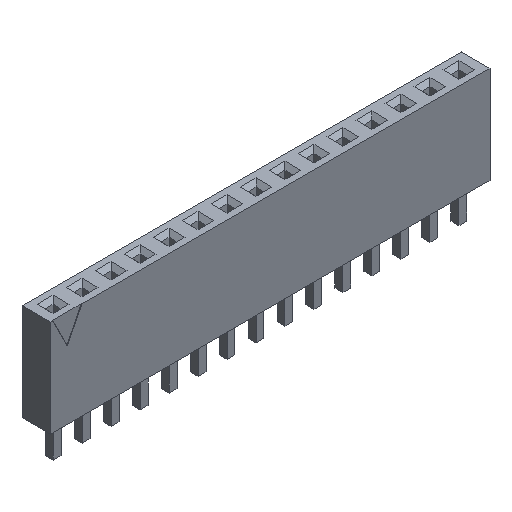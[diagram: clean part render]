
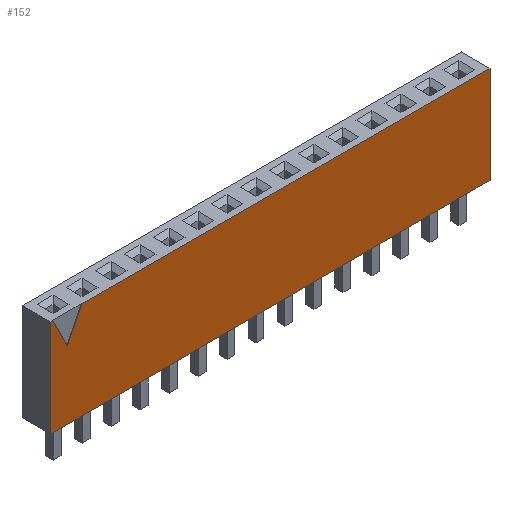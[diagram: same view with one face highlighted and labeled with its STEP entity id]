
A CAD part, isometric view. The second image highlights one B-rep face of the part: STEP entity #152.
In plain terms, the highlighted planar face has unit normal (0, -1, 0).
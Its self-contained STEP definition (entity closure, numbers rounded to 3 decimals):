
#36 = EDGE_CURVE('',#37,#39,#41,.T.);
#37 = VERTEX_POINT('',#38);
#38 = CARTESIAN_POINT('',(-1.47,-1.25,0.));
#39 = VERTEX_POINT('',#40);
#40 = CARTESIAN_POINT('',(-1.47,-1.25,8.5));
#41 = SURFACE_CURVE('',#42,(#46,#58),.PCURVE_S1.);
#42 = LINE('',#43,#44);
#43 = CARTESIAN_POINT('',(-1.47,-1.25,0.));
#44 = VECTOR('',#45,1.);
#45 = DIRECTION('',(0.,0.,1.));
#46 = PCURVE('',#47,#52);
#47 = PLANE('',#48);
#48 = AXIS2_PLACEMENT_3D('',#49,#50,#51);
#49 = CARTESIAN_POINT('',(-1.47,-1.25,0.));
#50 = DIRECTION('',(1.,0.,0.));
#51 = DIRECTION('',(0.,0.,1.));
#52 = DEFINITIONAL_REPRESENTATION('',(#53),#57);
#53 = LINE('',#54,#55);
#54 = CARTESIAN_POINT('',(0.,0.));
#55 = VECTOR('',#56,1.);
#56 = DIRECTION('',(1.,0.));
#57 = ( GEOMETRIC_REPRESENTATION_CONTEXT(2) 
PARAMETRIC_REPRESENTATION_CONTEXT() REPRESENTATION_CONTEXT('2D SPACE',''
  ) );
#58 = PCURVE('',#59,#64);
#59 = PLANE('',#60);
#60 = AXIS2_PLACEMENT_3D('',#61,#62,#63);
#61 = CARTESIAN_POINT('',(-1.47,-1.25,0.));
#62 = DIRECTION('',(0.,1.,0.));
#63 = DIRECTION('',(0.,0.,1.));
#64 = DEFINITIONAL_REPRESENTATION('',(#65),#69);
#65 = LINE('',#66,#67);
#66 = CARTESIAN_POINT('',(0.,0.));
#67 = VECTOR('',#68,1.);
#68 = DIRECTION('',(1.,0.));
#69 = ( GEOMETRIC_REPRESENTATION_CONTEXT(2) 
PARAMETRIC_REPRESENTATION_CONTEXT() REPRESENTATION_CONTEXT('2D SPACE',''
  ) );
#87 = PLANE('',#88);
#88 = AXIS2_PLACEMENT_3D('',#89,#90,#91);
#89 = CARTESIAN_POINT('',(-1.47,-1.25,0.));
#90 = DIRECTION('',(0.,0.,1.));
#91 = DIRECTION('',(1.,0.,0.));
#141 = PLANE('',#142);
#142 = AXIS2_PLACEMENT_3D('',#143,#144,#145);
#143 = CARTESIAN_POINT('',(-1.47,-1.25,8.5));
#144 = DIRECTION('',(0.,0.,1.));
#145 = DIRECTION('',(1.,0.,0.));
#152 = ADVANCED_FACE('',(#153),#59,.F.);
#153 = FACE_BOUND('',#154,.F.);
#154 = EDGE_LOOP('',(#155,#185,#206,#207,#230,#258,#286));
#155 = ORIENTED_EDGE('',*,*,#156,.F.);
#156 = EDGE_CURVE('',#157,#159,#161,.T.);
#157 = VERTEX_POINT('',#158);
#158 = CARTESIAN_POINT('',(37.03,-1.25,0.));
#159 = VERTEX_POINT('',#160);
#160 = CARTESIAN_POINT('',(37.03,-1.25,8.5));
#161 = SURFACE_CURVE('',#162,(#166,#173),.PCURVE_S1.);
#162 = LINE('',#163,#164);
#163 = CARTESIAN_POINT('',(37.03,-1.25,0.));
#164 = VECTOR('',#165,1.);
#165 = DIRECTION('',(0.,0.,1.));
#166 = PCURVE('',#59,#167);
#167 = DEFINITIONAL_REPRESENTATION('',(#168),#172);
#168 = LINE('',#169,#170);
#169 = CARTESIAN_POINT('',(0.,38.5));
#170 = VECTOR('',#171,1.);
#171 = DIRECTION('',(1.,0.));
#172 = ( GEOMETRIC_REPRESENTATION_CONTEXT(2) 
PARAMETRIC_REPRESENTATION_CONTEXT() REPRESENTATION_CONTEXT('2D SPACE',''
  ) );
#173 = PCURVE('',#174,#179);
#174 = PLANE('',#175);
#175 = AXIS2_PLACEMENT_3D('',#176,#177,#178);
#176 = CARTESIAN_POINT('',(37.03,-1.25,0.));
#177 = DIRECTION('',(1.,0.,0.));
#178 = DIRECTION('',(0.,0.,1.));
#179 = DEFINITIONAL_REPRESENTATION('',(#180),#184);
#180 = LINE('',#181,#182);
#181 = CARTESIAN_POINT('',(0.,0.));
#182 = VECTOR('',#183,1.);
#183 = DIRECTION('',(1.,0.));
#184 = ( GEOMETRIC_REPRESENTATION_CONTEXT(2) 
PARAMETRIC_REPRESENTATION_CONTEXT() REPRESENTATION_CONTEXT('2D SPACE',''
  ) );
#185 = ORIENTED_EDGE('',*,*,#186,.F.);
#186 = EDGE_CURVE('',#37,#157,#187,.T.);
#187 = SURFACE_CURVE('',#188,(#192,#199),.PCURVE_S1.);
#188 = LINE('',#189,#190);
#189 = CARTESIAN_POINT('',(-1.47,-1.25,0.));
#190 = VECTOR('',#191,1.);
#191 = DIRECTION('',(1.,0.,0.));
#192 = PCURVE('',#59,#193);
#193 = DEFINITIONAL_REPRESENTATION('',(#194),#198);
#194 = LINE('',#195,#196);
#195 = CARTESIAN_POINT('',(0.,0.));
#196 = VECTOR('',#197,1.);
#197 = DIRECTION('',(0.,1.));
#198 = ( GEOMETRIC_REPRESENTATION_CONTEXT(2) 
PARAMETRIC_REPRESENTATION_CONTEXT() REPRESENTATION_CONTEXT('2D SPACE',''
  ) );
#199 = PCURVE('',#87,#200);
#200 = DEFINITIONAL_REPRESENTATION('',(#201),#205);
#201 = LINE('',#202,#203);
#202 = CARTESIAN_POINT('',(0.,0.));
#203 = VECTOR('',#204,1.);
#204 = DIRECTION('',(1.,0.));
#205 = ( GEOMETRIC_REPRESENTATION_CONTEXT(2) 
PARAMETRIC_REPRESENTATION_CONTEXT() REPRESENTATION_CONTEXT('2D SPACE',''
  ) );
#206 = ORIENTED_EDGE('',*,*,#36,.T.);
#207 = ORIENTED_EDGE('',*,*,#208,.T.);
#208 = EDGE_CURVE('',#39,#209,#211,.T.);
#209 = VERTEX_POINT('',#210);
#210 = CARTESIAN_POINT('',(-1.27,-1.25,8.5));
#211 = SURFACE_CURVE('',#212,(#216,#223),.PCURVE_S1.);
#212 = LINE('',#213,#214);
#213 = CARTESIAN_POINT('',(-1.47,-1.25,8.5));
#214 = VECTOR('',#215,1.);
#215 = DIRECTION('',(1.,0.,0.));
#216 = PCURVE('',#59,#217);
#217 = DEFINITIONAL_REPRESENTATION('',(#218),#222);
#218 = LINE('',#219,#220);
#219 = CARTESIAN_POINT('',(8.5,0.));
#220 = VECTOR('',#221,1.);
#221 = DIRECTION('',(0.,1.));
#222 = ( GEOMETRIC_REPRESENTATION_CONTEXT(2) 
PARAMETRIC_REPRESENTATION_CONTEXT() REPRESENTATION_CONTEXT('2D SPACE',''
  ) );
#223 = PCURVE('',#141,#224);
#224 = DEFINITIONAL_REPRESENTATION('',(#225),#229);
#225 = LINE('',#226,#227);
#226 = CARTESIAN_POINT('',(0.,0.));
#227 = VECTOR('',#228,1.);
#228 = DIRECTION('',(1.,0.));
#229 = ( GEOMETRIC_REPRESENTATION_CONTEXT(2) 
PARAMETRIC_REPRESENTATION_CONTEXT() REPRESENTATION_CONTEXT('2D SPACE',''
  ) );
#230 = ORIENTED_EDGE('',*,*,#231,.T.);
#231 = EDGE_CURVE('',#209,#232,#234,.T.);
#232 = VERTEX_POINT('',#233);
#233 = CARTESIAN_POINT('',(0.,-1.25,5.96));
#234 = SURFACE_CURVE('',#235,(#239,#246),.PCURVE_S1.);
#235 = LINE('',#236,#237);
#236 = CARTESIAN_POINT('',(-1.27,-1.25,8.5));
#237 = VECTOR('',#238,1.);
#238 = DIRECTION('',(0.447,0.,-0.894));
#239 = PCURVE('',#59,#240);
#240 = DEFINITIONAL_REPRESENTATION('',(#241),#245);
#241 = LINE('',#242,#243);
#242 = CARTESIAN_POINT('',(8.5,0.2));
#243 = VECTOR('',#244,1.);
#244 = DIRECTION('',(-0.894,0.447));
#245 = ( GEOMETRIC_REPRESENTATION_CONTEXT(2) 
PARAMETRIC_REPRESENTATION_CONTEXT() REPRESENTATION_CONTEXT('2D SPACE',''
  ) );
#246 = PCURVE('',#247,#252);
#247 = PLANE('',#248);
#248 = AXIS2_PLACEMENT_3D('',#249,#250,#251);
#249 = CARTESIAN_POINT('',(-1.27,-1.25,8.5));
#250 = DIRECTION('',(-0.894,0.,-0.447));
#251 = DIRECTION('',(0.447,0.,-0.894));
#252 = DEFINITIONAL_REPRESENTATION('',(#253),#257);
#253 = LINE('',#254,#255);
#254 = CARTESIAN_POINT('',(0.,0.));
#255 = VECTOR('',#256,1.);
#256 = DIRECTION('',(1.,0.));
#257 = ( GEOMETRIC_REPRESENTATION_CONTEXT(2) 
PARAMETRIC_REPRESENTATION_CONTEXT() REPRESENTATION_CONTEXT('2D SPACE',''
  ) );
#258 = ORIENTED_EDGE('',*,*,#259,.F.);
#259 = EDGE_CURVE('',#260,#232,#262,.T.);
#260 = VERTEX_POINT('',#261);
#261 = CARTESIAN_POINT('',(1.27,-1.25,8.5));
#262 = SURFACE_CURVE('',#263,(#267,#274),.PCURVE_S1.);
#263 = LINE('',#264,#265);
#264 = CARTESIAN_POINT('',(1.27,-1.25,8.5));
#265 = VECTOR('',#266,1.);
#266 = DIRECTION('',(-0.447,0.,-0.894));
#267 = PCURVE('',#59,#268);
#268 = DEFINITIONAL_REPRESENTATION('',(#269),#273);
#269 = LINE('',#270,#271);
#270 = CARTESIAN_POINT('',(8.5,2.74));
#271 = VECTOR('',#272,1.);
#272 = DIRECTION('',(-0.894,-0.447));
#273 = ( GEOMETRIC_REPRESENTATION_CONTEXT(2) 
PARAMETRIC_REPRESENTATION_CONTEXT() REPRESENTATION_CONTEXT('2D SPACE',''
  ) );
#274 = PCURVE('',#275,#280);
#275 = PLANE('',#276);
#276 = AXIS2_PLACEMENT_3D('',#277,#278,#279);
#277 = CARTESIAN_POINT('',(1.27,-1.25,8.5));
#278 = DIRECTION('',(-0.894,0.,0.447));
#279 = DIRECTION('',(-0.447,0.,-0.894));
#280 = DEFINITIONAL_REPRESENTATION('',(#281),#285);
#281 = LINE('',#282,#283);
#282 = CARTESIAN_POINT('',(-0.,0.));
#283 = VECTOR('',#284,1.);
#284 = DIRECTION('',(1.,0.));
#285 = ( GEOMETRIC_REPRESENTATION_CONTEXT(2) 
PARAMETRIC_REPRESENTATION_CONTEXT() REPRESENTATION_CONTEXT('2D SPACE',''
  ) );
#286 = ORIENTED_EDGE('',*,*,#287,.T.);
#287 = EDGE_CURVE('',#260,#159,#288,.T.);
#288 = SURFACE_CURVE('',#289,(#293,#300),.PCURVE_S1.);
#289 = LINE('',#290,#291);
#290 = CARTESIAN_POINT('',(-1.47,-1.25,8.5));
#291 = VECTOR('',#292,1.);
#292 = DIRECTION('',(1.,0.,0.));
#293 = PCURVE('',#59,#294);
#294 = DEFINITIONAL_REPRESENTATION('',(#295),#299);
#295 = LINE('',#296,#297);
#296 = CARTESIAN_POINT('',(8.5,0.));
#297 = VECTOR('',#298,1.);
#298 = DIRECTION('',(0.,1.));
#299 = ( GEOMETRIC_REPRESENTATION_CONTEXT(2) 
PARAMETRIC_REPRESENTATION_CONTEXT() REPRESENTATION_CONTEXT('2D SPACE',''
  ) );
#300 = PCURVE('',#141,#301);
#301 = DEFINITIONAL_REPRESENTATION('',(#302),#306);
#302 = LINE('',#303,#304);
#303 = CARTESIAN_POINT('',(0.,0.));
#304 = VECTOR('',#305,1.);
#305 = DIRECTION('',(1.,0.));
#306 = ( GEOMETRIC_REPRESENTATION_CONTEXT(2) 
PARAMETRIC_REPRESENTATION_CONTEXT() REPRESENTATION_CONTEXT('2D SPACE',''
  ) );
